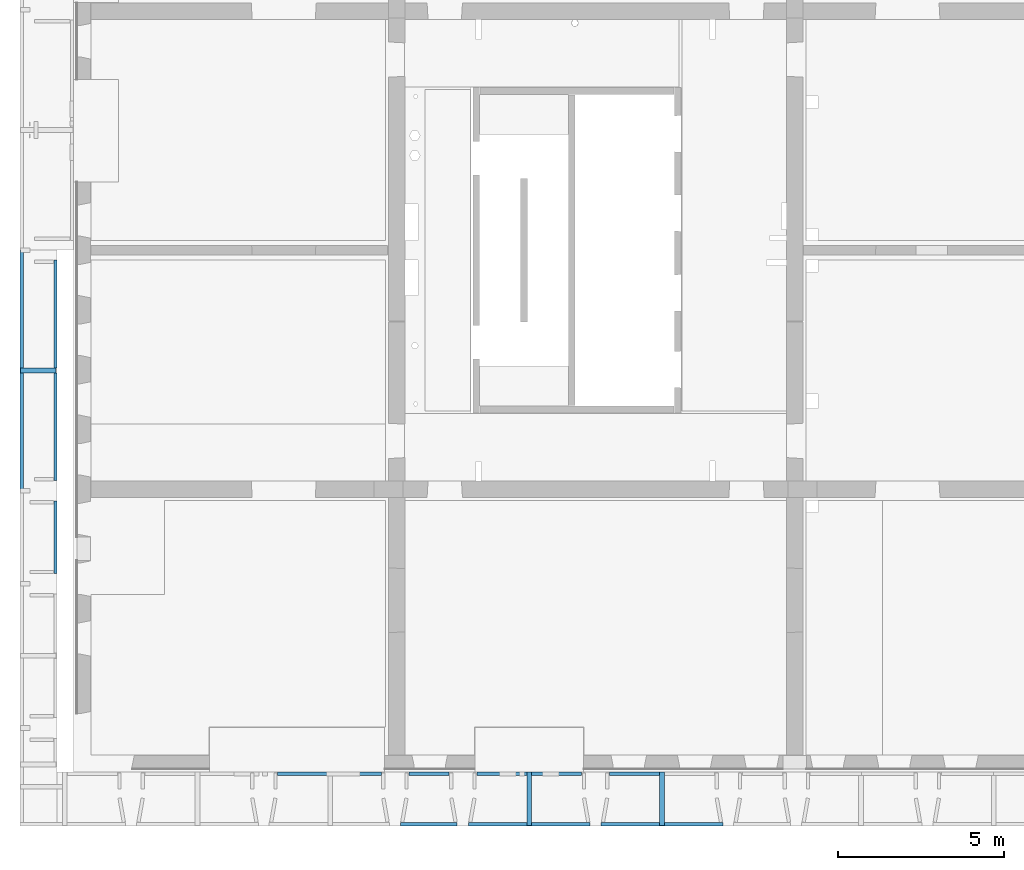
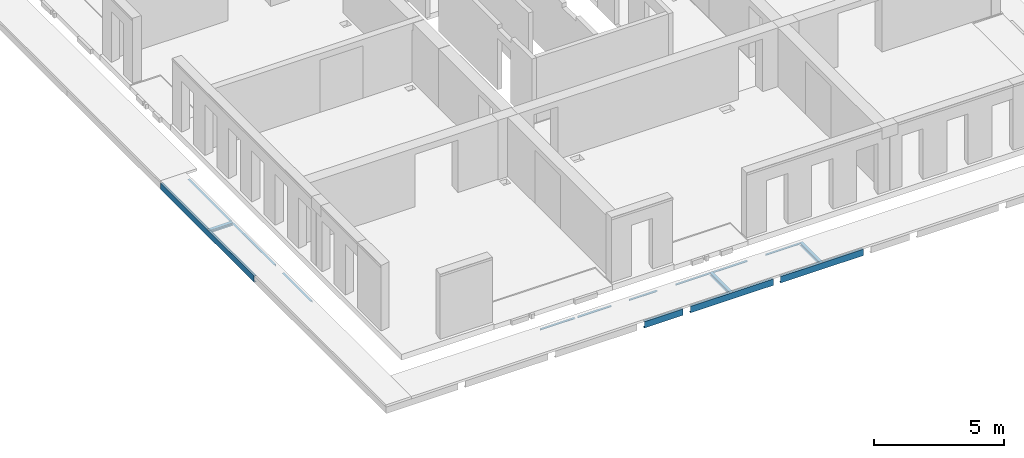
# One storey, part 2 of 27: 16 beams.
"""IFC2X3 building model written with IfcOpenShell, lengths in millimetres."""

from ifc_helpers import new_model, entity, si_unit, converted_unit, derived_unit, direction, frame, frame_2d, origin, place, context, subcontext, project, spatial, polyline, circle_curve, parameter, trimmed, segment, composite_curve, i_section, outline, extrude, material, type_object, element, save


model = new_model("IFC2X3")

# Units and contexts
model_context = context("Model", 3, precision=0.01, world=origin(), true_north=direction((6.12303176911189e-17, 1.0)))
body_context = subcontext(model_context, "Body", "Model", "MODEL_VIEW")
ifc_project = project(units=[si_unit("LENGTHUNIT", "METRE", prefix="MILLI"), si_unit("AREAUNIT", "SQUARE_METRE"), si_unit("VOLUMEUNIT", "CUBIC_METRE"), converted_unit("PLANEANGLEUNIT", "DEGREE", entity("IfcRatioMeasure", 0.0174532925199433), si_unit("PLANEANGLEUNIT", "RADIAN"), dimensions=[0, 0, 0, 0, 0, 0, 0]), si_unit("MASSUNIT", "GRAM", prefix="KILO"), derived_unit("MASSDENSITYUNIT", [(si_unit("MASSUNIT", "GRAM", prefix="KILO"), 1), (si_unit("LENGTHUNIT", "METRE"), -3)]), si_unit("TIMEUNIT", "SECOND"), si_unit("FREQUENCYUNIT", "HERTZ"), si_unit("THERMODYNAMICTEMPERATUREUNIT", "DEGREE_CELSIUS"), derived_unit("THERMALTRANSMITTANCEUNIT", [(si_unit("MASSUNIT", "GRAM", prefix="KILO"), 1), (si_unit("THERMODYNAMICTEMPERATUREUNIT", "KELVIN"), -1), (si_unit("TIMEUNIT", "SECOND"), -3)]), derived_unit("VOLUMETRICFLOWRATEUNIT", [(si_unit("LENGTHUNIT", "METRE"), 3), (si_unit("TIMEUNIT", "SECOND"), -1)]), si_unit("ELECTRICCURRENTUNIT", "AMPERE"), si_unit("ELECTRICVOLTAGEUNIT", "VOLT"), si_unit("POWERUNIT", "WATT"), si_unit("FORCEUNIT", "NEWTON", prefix="KILO"), si_unit("ILLUMINANCEUNIT", "LUX"), si_unit("LUMINOUSFLUXUNIT", "LUMEN"), si_unit("LUMINOUSINTENSITYUNIT", "CANDELA"), derived_unit("USERDEFINED", [(si_unit("MASSUNIT", "GRAM", prefix="KILO"), -1), (si_unit("LENGTHUNIT", "METRE"), -2), (si_unit("TIMEUNIT", "SECOND"), 3), (si_unit("LUMINOUSFLUXUNIT", "LUMEN"), 1)]), derived_unit("LINEARVELOCITYUNIT", [(si_unit("LENGTHUNIT", "METRE"), 1), (si_unit("TIMEUNIT", "SECOND"), -1)]), si_unit("PRESSUREUNIT", "PASCAL"), derived_unit("USERDEFINED", [(si_unit("LENGTHUNIT", "METRE"), -2), (si_unit("MASSUNIT", "GRAM", prefix="KILO"), 1), (si_unit("TIMEUNIT", "SECOND"), -2)])], contexts=[model_context])

# Site, building, storey
site_placement = place(None, origin())
site = spatial("IfcSite", under=ifc_project, at=site_placement, Name="Default", CompositionType="ELEMENT")
building_placement = place(site_placement, origin())
building = spatial("IfcBuilding", under=site, at=building_placement, Name="niet gebruiken", CompositionType="ELEMENT")
storey_placement = place(building_placement, frame((0.0, 0.0, 18000.0)))
storey = spatial("IfcBuildingStorey", under=building, at=storey_placement, Name="05 vijfde verdieping", CompositionType="ELEMENT", Elevation=18000.0)

# Beams
ifc_material = material(Name="NLRS_h2_staal")
beam_type_1 = type_object("IfcBeamType", Name="NLRS_28.11_SF_WPB_stalen ligger HEA_gen:ligger HEA 140", PredefinedType="BEAM")
beam_1_placement = place(storey_placement, frame((125490.0, 13875.0, -1015.0), z_axis=(0.0, 0.0, 1.0), x_axis=(-1.0, 0.0, 0.0)))
element("IfcBeam", 1, at=beam_1_placement, inside=storey, type_object=beam_type_1, material=ifc_material, Name="NLRS_28.11_SF_WPB_stalen ligger HEA_gen:ligger HEA 140", ObjectType="NLRS_28.11_SF_WPB_stalen ligger HEA_gen:ligger HEA 140", context=body_context, shape_type="SweptSolid", body=[
    extrude(i_section(OverallWidth=140.000000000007, OverallDepth=133.0, WebThickness=5.49999999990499, FlangeThickness=8.49999999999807, FilletRadius=11.9999999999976, at=frame_2d((-2.16715534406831e-12, -2.1600499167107e-12), x_axis=(0.0, 1.0))), frame((0.0, 0.0, -66.5000000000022), z_axis=(1.0, 0.0, 0.0), x_axis=(0.0, 0.0, -1.0)), (0.0, 0.0, 1.0), 1080.00000000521),
])
beam_2_placement = place(storey_placement, frame((139750.0, 160.0, -1015.0), z_axis=(0.0, 0.0, 1.0), x_axis=(0.0, 1.0, 0.0)))
element("IfcBeam", 2, at=beam_2_placement, inside=storey, type_object=beam_type_1, material=ifc_material, Name="NLRS_28.11_SF_WPB_stalen ligger HEA_gen:ligger HEA 140", ObjectType="NLRS_28.11_SF_WPB_stalen ligger HEA_gen:ligger HEA 140", context=body_context, shape_type="SweptSolid", body=[
    extrude(i_section(OverallWidth=140.000000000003, OverallDepth=133.0, WebThickness=5.49999999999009, FlangeThickness=8.49999999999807, FilletRadius=11.9999999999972, at=frame_2d((-4.33431068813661e-12, -1.73301373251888e-11), x_axis=(0.0, 1.0))), frame((0.0, 0.0, -66.5000000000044), z_axis=(1.0, 0.0, 0.0), x_axis=(0.0, 0.0, -1.0)), (0.0, 0.0, 1.0), 1610.0),
])
beam_3_placement = place(storey_placement, frame((143750.0, 160.0, -1015.0), z_axis=(0.0, 0.0, 1.0), x_axis=(0.0, 1.0, 0.0)))
element("IfcBeam", 3, at=beam_3_placement, inside=storey, type_object=beam_type_1, material=ifc_material, Name="NLRS_28.11_SF_WPB_stalen ligger HEA_gen:ligger HEA 140", ObjectType="NLRS_28.11_SF_WPB_stalen ligger HEA_gen:ligger HEA 140", context=body_context, shape_type="SweptSolid", body=[
    extrude(i_section(OverallWidth=140.000000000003, OverallDepth=133.0, WebThickness=5.49999999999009, FlangeThickness=8.49999999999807, FilletRadius=11.9999999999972, at=frame_2d((-4.33431068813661e-12, 0.0), x_axis=(0.0, 1.0))), frame((0.0, 0.0, -66.5000000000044), z_axis=(1.0, 0.0, 0.0), x_axis=(0.0, 0.0, -1.0)), (0.0, 0.0, 1.0), 1610.0),
])
beam_type_2 = type_object("IfcBeamType", Name="NLRS_28.11_SF_WPB_stalen ligger UNP_gen:ligger UNP 300", PredefinedType="BEAM")
beam_4_placement = place(storey_placement, frame((124427.0, 17500.0, -1015.0), z_axis=(0.0, 0.0, 1.0), x_axis=(0.0, -1.0, 0.0)))
element("IfcBeam", 4, at=beam_4_placement, inside=storey, type_object=beam_type_2, material=ifc_material, Name="NLRS_28.11_SF_WPB_stalen ligger UNP_gen:ligger UNP 300", ObjectType="NLRS_28.11_SF_WPB_stalen ligger UNP_gen:ligger UNP 300", context=body_context, shape_type="SweptSolid", body=[
    extrude(outline(composite_curve([segment(polyline([(-150.062397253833, -54.6666666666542), (149.937602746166, -54.6666666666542)]), True, "CONTINUOUS"), segment(polyline([(149.937602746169, -54.6666666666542), (149.937602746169, 45.3333333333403)]), True, "CONTINUOUS"), segment(polyline([(149.937602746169, 45.3333333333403), (142.655201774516, 45.3333333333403)]), True, "CONTINUOUS"), segment(trimmed(circle_curve(frame_2d((142.655201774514, 37.3333333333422), x_axis=(0.0, 1.0)), 7.99999999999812), [parameter(0.0)], [parameter(90.0000000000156)], True, "PARAMETER"), True, "CONTINUOUS"), segment(polyline([(134.655201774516, 37.3333333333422), (130.39041273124, -28.6666666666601)]), True, "CONTINUOUS"), segment(trimmed(circle_curve(frame_2d((114.39041273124, -28.6666666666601), x_axis=(1.0, 0.0)), 15.9999999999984), [parameter(270.0)], [parameter(0.0)], True, "PARAMETER"), False, "CONTINUOUS"), segment(polyline([(114.390412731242, -44.6666666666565), (-113.875860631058, -44.6666666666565)]), True, "CONTINUOUS"), segment(trimmed(circle_curve(frame_2d((-113.875860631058, -28.6666666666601), x_axis=(0.0, -1.0)), 15.9999999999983), [parameter(270.0)], [parameter(0.0)], True, "PARAMETER"), False, "CONTINUOUS"), segment(polyline([(-129.875860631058, -28.6666666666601), (-135.044959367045, 37.3333333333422)]), True, "CONTINUOUS"), segment(trimmed(circle_curve(frame_2d((-143.044959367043, 37.3333333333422), x_axis=(1.0, 0.0)), 7.9999999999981), [parameter(0.0)], [parameter(90.0000000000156)], True, "PARAMETER"), True, "CONTINUOUS"), segment(polyline([(-143.044959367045, 45.3333333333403), (-150.062397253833, 45.3333333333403)]), True, "CONTINUOUS"), segment(polyline([(-150.062397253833, 45.3333333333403), (-150.062397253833, -54.6666666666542)]), True, "CONTINUOUS")], self_intersect=False)), frame((6.0960005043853e-07, 27.6666666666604, -150.062397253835), z_axis=(1.0, 0.0, 0.0), x_axis=(0.0, 0.0, -1.0)), (0.0, 0.0, 1.0), 7199.9999993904),
])
beam_5_placement = place(storey_placement, frame((141585.0, 177.0, -1015.0), z_axis=(0.0, 0.0, 1.0), x_axis=(-1.0, 0.0, 0.0)))
element("IfcBeam", 5, at=beam_5_placement, inside=storey, type_object=beam_type_2, material=ifc_material, Name="NLRS_28.11_SF_WPB_stalen ligger UNP_gen:ligger UNP 300", ObjectType="NLRS_28.11_SF_WPB_stalen ligger UNP_gen:ligger UNP 300", context=body_context, shape_type="SweptSolid", body=[
    extrude(outline(composite_curve([segment(polyline([(-149.937602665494, -45.3333336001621), (-142.655201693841, -45.3333336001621)]), True, "CONTINUOUS"), segment(trimmed(circle_curve(frame_2d((-142.655201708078, -37.3333335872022), x_axis=(1.77959691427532e-09, -1.0)), 8.00000000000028), [parameter(0.0)], [parameter(89.9999999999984)], True, "PARAMETER"), True, "CONTINUOUS"), segment(polyline([(-134.655201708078, -37.3333335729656), (-130.390412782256, 28.6666664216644)]), True, "CONTINUOUS"), segment(trimmed(circle_curve(frame_2d((-114.390412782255, 28.6666664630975), x_axis=(-1.0, -1.7795827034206e-09)), 16.0), [parameter(270.000000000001)], [parameter(0.0)], True, "PARAMETER"), False, "CONTINUOUS"), segment(polyline([(-114.390412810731, 44.6666664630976), (113.875860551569, 44.66666685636)]), True, "CONTINUOUS"), segment(trimmed(circle_curve(frame_2d((113.875860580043, 28.6666668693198), x_axis=(-1.77959691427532e-09, 1.0)), 15.9999999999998), [parameter(270.0)], [parameter(0.0)], True, "PARAMETER"), False, "CONTINUOUS"), segment(polyline([(129.875860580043, 28.6666668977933), (135.044959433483, -37.3333331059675)]), True, "CONTINUOUS"), segment(trimmed(circle_curve(frame_2d((143.044959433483, -37.3333330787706), x_axis=(-1.0, -1.77961823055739e-09)), 8.00000000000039), [parameter(0.0)], [parameter(89.9999999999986)], True, "PARAMETER"), True, "CONTINUOUS"), segment(polyline([(143.04495944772, -45.3333330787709), (150.062397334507, -45.3333330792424)]), True, "CONTINUOUS"), segment(polyline([(150.062397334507, -45.3333330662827), (150.062397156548, 54.6666669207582)]), True, "CONTINUOUS"), segment(polyline([(150.062397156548, 54.666666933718), (-149.937602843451, 54.666666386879)]), True, "CONTINUOUS"), segment(polyline([(-149.937602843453, 54.6666663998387), (-149.937602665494, -45.3333336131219)]), True, "CONTINUOUS")], self_intersect=False)), frame((0.0, -27.6666666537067, -149.937602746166), z_axis=(1.0, 0.0, 0.0), x_axis=(0.0, -1.77959439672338e-09, -1.0)), (0.0, 0.0, 1.0), 3673.03330011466),
])
beam_6_placement = place(storey_placement, frame((145585.0, 177.0, -1015.0), z_axis=(0.0, 0.0, 1.0), x_axis=(-1.0, 0.0, 0.0)))
element("IfcBeam", 6, at=beam_6_placement, inside=storey, type_object=beam_type_2, material=ifc_material, Name="NLRS_28.11_SF_WPB_stalen ligger UNP_gen:ligger UNP 300", ObjectType="NLRS_28.11_SF_WPB_stalen ligger UNP_gen:ligger UNP 300", context=body_context, shape_type="SweptSolid", body=[
    extrude(outline(composite_curve([segment(polyline([(-149.937602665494, -45.3333336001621), (-142.655201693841, -45.3333336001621)]), True, "CONTINUOUS"), segment(trimmed(circle_curve(frame_2d((-142.655201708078, -37.3333335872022), x_axis=(1.77959691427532e-09, -1.0)), 8.00000000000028), [parameter(0.0)], [parameter(89.9999999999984)], True, "PARAMETER"), True, "CONTINUOUS"), segment(polyline([(-134.655201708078, -37.3333335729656), (-130.390412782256, 28.6666664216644)]), True, "CONTINUOUS"), segment(trimmed(circle_curve(frame_2d((-114.390412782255, 28.6666664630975), x_axis=(-1.0, -1.7795827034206e-09)), 16.0), [parameter(270.000000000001)], [parameter(0.0)], True, "PARAMETER"), False, "CONTINUOUS"), segment(polyline([(-114.390412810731, 44.6666664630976), (113.875860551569, 44.66666685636)]), True, "CONTINUOUS"), segment(trimmed(circle_curve(frame_2d((113.875860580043, 28.6666668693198), x_axis=(-1.77959691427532e-09, 1.0)), 15.9999999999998), [parameter(270.0)], [parameter(0.0)], True, "PARAMETER"), False, "CONTINUOUS"), segment(polyline([(129.875860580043, 28.6666668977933), (135.044959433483, -37.3333331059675)]), True, "CONTINUOUS"), segment(trimmed(circle_curve(frame_2d((143.044959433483, -37.3333330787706), x_axis=(-1.0, -1.77961823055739e-09)), 8.00000000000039), [parameter(0.0)], [parameter(89.9999999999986)], True, "PARAMETER"), True, "CONTINUOUS"), segment(polyline([(143.04495944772, -45.3333330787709), (150.062397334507, -45.3333330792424)]), True, "CONTINUOUS"), segment(polyline([(150.062397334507, -45.3333330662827), (150.062397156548, 54.6666669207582)]), True, "CONTINUOUS"), segment(polyline([(150.062397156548, 54.666666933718), (-149.937602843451, 54.666666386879)]), True, "CONTINUOUS"), segment(polyline([(-149.937602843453, 54.6666663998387), (-149.937602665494, -45.3333336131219)]), True, "CONTINUOUS")], self_intersect=False)), frame((0.0, -27.6666666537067, -149.937602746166), z_axis=(1.0, 0.0, 0.0), x_axis=(0.0, -1.77959439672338e-09, -1.0)), (0.0, 0.0, 1.0), 3673.03330011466),
])
beam_7_placement = place(storey_placement, frame((137576.966699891, 177.0, -1015.0), z_axis=(0.0, 0.0, 1.0), x_axis=(-1.0, 0.0, 0.0)))
element("IfcBeam", 7, at=beam_7_placement, inside=storey, type_object=beam_type_2, material=ifc_material, Name="NLRS_28.11_SF_WPB_stalen ligger UNP_gen:ligger UNP 300", ObjectType="NLRS_28.11_SF_WPB_stalen ligger UNP_gen:ligger UNP 300", context=body_context, shape_type="SweptSolid", body=[
    extrude(outline(composite_curve([segment(polyline([(-149.9376027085, -45.3333334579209), (-142.655201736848, -45.3333334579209)]), True, "CONTINUOUS"), segment(trimmed(circle_curve(frame_2d((-142.655201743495, -37.3333334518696), x_axis=(0.0, -1.0)), 8.00000000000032), [parameter(0.0)], [parameter(89.9999999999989)], True, "PARAMETER"), True, "CONTINUOUS"), segment(polyline([(-134.655201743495, -37.3333334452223), (-130.390412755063, 28.6666665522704)]), True, "CONTINUOUS"), segment(trimmed(circle_curve(frame_2d((-114.39041275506, 28.6666665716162), x_axis=(-1.0, 0.0)), 16.0), [parameter(270.000000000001)], [parameter(0.0)], True, "PARAMETER"), False, "CONTINUOUS"), segment(polyline([(-114.390412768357, 44.6666665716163), (113.875860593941, 44.6666667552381)]), True, "CONTINUOUS"), segment(trimmed(circle_curve(frame_2d((113.875860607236, 28.6666667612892), x_axis=(0.0, 1.0)), 15.9999999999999), [parameter(270.0)], [parameter(0.0)], True, "PARAMETER"), False, "CONTINUOUS"), segment(polyline([(129.875860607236, 28.6666667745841), (135.044959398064, -37.3333332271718)]), True, "CONTINUOUS"), segment(trimmed(circle_curve(frame_2d((143.044959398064, -37.333333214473), x_axis=(-1.0, 0.0)), 8.00000000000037), [parameter(0.0)], [parameter(89.9999999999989)], True, "PARAMETER"), True, "CONTINUOUS"), segment(polyline([(143.044959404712, -45.3333332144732), (150.062397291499, -45.3333332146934)]), True, "CONTINUOUS"), segment(polyline([(150.062397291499, -45.3333332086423), (150.062397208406, 54.6666667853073)]), True, "CONTINUOUS"), segment(polyline([(150.062397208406, 54.6666667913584), (-149.937602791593, 54.6666665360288)]), True, "CONTINUOUS"), segment(polyline([(-149.937602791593, 54.66666654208), (-149.9376027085, -45.333333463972)]), True, "CONTINUOUS")], self_intersect=False)), frame((0.0, -27.6666666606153, -149.937602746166), z_axis=(1.0, 0.0, 0.0), x_axis=(0.0, 0.0, -1.0)), (0.0, 0.0, 1.0), 1715.00000000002),
])
beam_type_3 = type_object("IfcBeamType", Name="NLRS_28.11_SF_WPB_stalen ligger hoekprofiel gelijkzijdig_gen:ligger gelijzijdig hoekprofiel LEQU_100x100x10", PredefinedType="BEAM")
beam_8_placement = place(storey_placement, frame((125520.0, 17250.0, -1015.0), z_axis=(0.0, 0.0, 1.0), x_axis=(0.0, -1.0, 0.0)))
element("IfcBeam", 8, at=beam_8_placement, inside=storey, type_object=beam_type_3, material=ifc_material, Name="NLRS_28.11_SF_WPB_stalen ligger hoekprofiel gelijkzijdig_gen:ligger gelijzijdig hoekprofiel LEQU_100x100x10", ObjectType="NLRS_28.11_SF_WPB_stalen ligger hoekprofiel gelijkzijdig_gen:ligger gelijzijdig hoekprofiel LEQU_100x100x10", context=body_context, shape_type="SweptSolid", body=[
    extrude(outline(composite_curve([segment(polyline([(-37.7777777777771, -62.2222222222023), (-33.7777777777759, -62.2222222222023)]), True, "CONTINUOUS"), segment(trimmed(circle_curve(frame_2d((-33.7777777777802, -56.2222222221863), x_axis=(0.0, -1.0)), 6.00000000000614), [parameter(0.0)], [parameter(89.9999999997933)], True, "PARAMETER"), True, "CONTINUOUS"), segment(polyline([(-27.7777777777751, -56.2222222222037), (-27.7777777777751, 15.7777777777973)]), True, "CONTINUOUS"), segment(trimmed(circle_curve(frame_2d((-15.7777777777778, 15.7777777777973), x_axis=(-1.0, 0.0)), 11.9999999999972), [parameter(269.99999999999)], [parameter(0.0)], True, "PARAMETER"), False, "CONTINUOUS"), segment(polyline([(-15.7777777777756, 27.7777777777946), (56.2222222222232, 27.7777777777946)]), True, "CONTINUOUS"), segment(trimmed(circle_curve(frame_2d((56.2222222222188, 33.7777777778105), x_axis=(0.0, -1.0)), 6.00000000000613), [parameter(0.0)], [parameter(89.9999999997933)], True, "PARAMETER"), True, "CONTINUOUS"), segment(polyline([(62.222222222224, 33.7777777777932), (62.222222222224, 37.7777777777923)]), True, "CONTINUOUS"), segment(polyline([(62.222222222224, 37.7777777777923), (-37.7777777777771, 37.7777777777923)]), True, "CONTINUOUS"), segment(polyline([(-37.7777777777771, 37.7777777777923), (-37.7777777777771, -62.2222222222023)]), True, "CONTINUOUS")], self_intersect=False)), frame((50.0, -37.7777777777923, -37.7777777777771), z_axis=(1.0, 0.0, 0.0), x_axis=(0.0, 0.0, -1.0)), (0.0, 0.0, 1.0), 3245.00000000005),
])
beam_9_placement = place(storey_placement, frame((125520.0, 13805.0, -1015.0), z_axis=(0.0, 0.0, 1.0), x_axis=(0.0, -1.0, 0.0)))
element("IfcBeam", 9, at=beam_9_placement, inside=storey, type_object=beam_type_3, material=ifc_material, Name="NLRS_28.11_SF_WPB_stalen ligger hoekprofiel gelijkzijdig_gen:ligger gelijzijdig hoekprofiel LEQU_100x100x10", ObjectType="NLRS_28.11_SF_WPB_stalen ligger hoekprofiel gelijkzijdig_gen:ligger gelijzijdig hoekprofiel LEQU_100x100x10", context=body_context, shape_type="SweptSolid", body=[
    extrude(outline(composite_curve([segment(polyline([(-37.7777777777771, -62.2222222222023), (-33.7777777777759, -62.2222222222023)]), True, "CONTINUOUS"), segment(trimmed(circle_curve(frame_2d((-33.7777777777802, -56.2222222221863), x_axis=(0.0, -1.0)), 6.00000000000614), [parameter(0.0)], [parameter(89.9999999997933)], True, "PARAMETER"), True, "CONTINUOUS"), segment(polyline([(-27.7777777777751, -56.2222222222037), (-27.7777777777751, 15.7777777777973)]), True, "CONTINUOUS"), segment(trimmed(circle_curve(frame_2d((-15.7777777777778, 15.7777777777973), x_axis=(-1.0, 0.0)), 11.9999999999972), [parameter(269.99999999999)], [parameter(0.0)], True, "PARAMETER"), False, "CONTINUOUS"), segment(polyline([(-15.7777777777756, 27.7777777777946), (56.2222222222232, 27.7777777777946)]), True, "CONTINUOUS"), segment(trimmed(circle_curve(frame_2d((56.2222222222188, 33.7777777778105), x_axis=(0.0, -1.0)), 6.00000000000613), [parameter(0.0)], [parameter(89.9999999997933)], True, "PARAMETER"), True, "CONTINUOUS"), segment(polyline([(62.222222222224, 33.7777777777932), (62.222222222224, 37.7777777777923)]), True, "CONTINUOUS"), segment(polyline([(62.222222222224, 37.7777777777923), (-37.7777777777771, 37.7777777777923)]), True, "CONTINUOUS"), segment(polyline([(-37.7777777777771, 37.7777777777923), (-37.7777777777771, -62.2222222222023)]), True, "CONTINUOUS")], self_intersect=False)), frame((10.0, -37.7777777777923, -37.7777777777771), z_axis=(1.0, 0.0, 0.0), x_axis=(0.0, 0.0, -1.0)), (0.0, 0.0, 1.0), 3232.29999999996),
])
beam_10_placement = place(storey_placement, frame((125520.0, 9950.0, -1015.0), z_axis=(0.0, 0.0, 1.0), x_axis=(0.0, -1.0, 0.0)))
element("IfcBeam", 10, at=beam_10_placement, inside=storey, type_object=beam_type_3, material=ifc_material, Name="NLRS_28.11_SF_WPB_stalen ligger hoekprofiel gelijkzijdig_gen:ligger gelijzijdig hoekprofiel LEQU_100x100x10", ObjectType="NLRS_28.11_SF_WPB_stalen ligger hoekprofiel gelijkzijdig_gen:ligger gelijzijdig hoekprofiel LEQU_100x100x10", context=body_context, shape_type="SweptSolid", body=[
    extrude(outline(composite_curve([segment(polyline([(-37.7777777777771, -62.2222222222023), (-33.7777777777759, -62.2222222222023)]), True, "CONTINUOUS"), segment(trimmed(circle_curve(frame_2d((-33.7777777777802, -56.2222222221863), x_axis=(0.0, -1.0)), 6.00000000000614), [parameter(0.0)], [parameter(89.9999999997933)], True, "PARAMETER"), True, "CONTINUOUS"), segment(polyline([(-27.7777777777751, -56.2222222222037), (-27.7777777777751, 15.7777777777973)]), True, "CONTINUOUS"), segment(trimmed(circle_curve(frame_2d((-15.7777777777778, 15.7777777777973), x_axis=(-1.0, 0.0)), 11.9999999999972), [parameter(269.99999999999)], [parameter(0.0)], True, "PARAMETER"), False, "CONTINUOUS"), segment(polyline([(-15.7777777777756, 27.7777777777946), (56.2222222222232, 27.7777777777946)]), True, "CONTINUOUS"), segment(trimmed(circle_curve(frame_2d((56.2222222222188, 33.7777777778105), x_axis=(0.0, -1.0)), 6.00000000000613), [parameter(0.0)], [parameter(89.9999999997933)], True, "PARAMETER"), True, "CONTINUOUS"), segment(polyline([(62.222222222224, 33.7777777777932), (62.222222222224, 37.7777777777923)]), True, "CONTINUOUS"), segment(polyline([(62.222222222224, 37.7777777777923), (-37.7777777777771, 37.7777777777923)]), True, "CONTINUOUS"), segment(polyline([(-37.7777777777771, 37.7777777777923), (-37.7777777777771, -62.2222222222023)]), True, "CONTINUOUS")], self_intersect=False)), frame((10.0000006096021, -37.7777777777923, -37.7777777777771), z_axis=(1.0, 0.0, 0.0), x_axis=(0.0, 0.0, -1.0)), (0.0, 0.0, 1.0), 2179.9999987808),
])
beam_11_placement = place(storey_placement, frame((141330.0, 1670.0, -1015.0), z_axis=(0.0, 0.0, 1.0), x_axis=(-1.0, 0.0, 0.0)))
element("IfcBeam", 11, at=beam_11_placement, inside=storey, type_object=beam_type_3, material=ifc_material, Name="NLRS_28.11_SF_WPB_stalen ligger hoekprofiel gelijkzijdig_gen:ligger gelijzijdig hoekprofiel LEQU_100x100x10", ObjectType="NLRS_28.11_SF_WPB_stalen ligger hoekprofiel gelijkzijdig_gen:ligger gelijzijdig hoekprofiel LEQU_100x100x10", context=body_context, shape_type="SweptSolid", body=[
    extrude(outline(composite_curve([segment(polyline([(-37.7777777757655, -37.7777777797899), (62.2222222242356, -37.7777777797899)]), True, "CONTINUOUS"), segment(polyline([(62.2222222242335, -37.7777777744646), (62.2222222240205, -33.7777777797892)]), True, "CONTINUOUS"), segment(trimmed(circle_curve(frame_2d((56.2222222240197, -33.7777777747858), x_axis=(1.0, 0.0)), 6.0000000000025), [parameter(0.0)], [parameter(89.9999999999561)], True, "PARAMETER"), True, "CONTINUOUS"), segment(polyline([(56.2222222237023, -27.7777777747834), (-15.7777777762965, -27.7777777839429)]), True, "CONTINUOUS"), segment(trimmed(circle_curve(frame_2d((-15.7777777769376, -15.7777777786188), x_axis=(0.0, -1.0)), 11.9999999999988), [parameter(269.999999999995)], [parameter(0.0)], True, "PARAMETER"), False, "CONTINUOUS"), segment(polyline([(-27.7777777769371, -15.7777777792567), (-27.7777777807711, 56.2222222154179)]), True, "CONTINUOUS"), segment(trimmed(circle_curve(frame_2d((-33.777777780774, 56.2222222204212), x_axis=(1.0, 0.0)), 6.0000000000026), [parameter(0.0)], [parameter(89.9999999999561)], True, "PARAMETER"), True, "CONTINUOUS"), segment(polyline([(-33.7777777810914, 62.2222222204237), (-37.7777777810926, 62.2222222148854)]), True, "CONTINUOUS"), segment(polyline([(-37.7777777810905, 62.2222222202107), (-37.7777777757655, -37.7777777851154)]), True, "CONTINUOUS")], self_intersect=False)), frame((0.0, -62.2222222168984, -37.7777777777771), z_axis=(1.0, 0.0, 0.0), x_axis=(0.0, 0.0, -1.0)), (0.0, 0.0, 1.0), 1510.00000000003),
])
for number, where, z_axis, x_axis, name in (
    (12, (139750.0, 1670.0, -1015.0), (0.0, 0.0, 1.0), (-1.0, 0.0, 0.0), "NLRS_28.11_SF_WPB_stalen ligger hoekprofiel gelijkzijdig_gen:ligger gelijzijdig hoekprofiel LEQU_100x100x10"),
    (13, (143750.0, 1670.0, -1015.0), (0.0, 0.0, 1.0), (-1.0, 0.0, 0.0), "NLRS_28.11_SF_WPB_stalen ligger hoekprofiel gelijkzijdig_gen:ligger gelijzijdig hoekprofiel LEQU_100x100x10"),
):
    element("IfcBeam", number, at=place(storey_placement, frame(where, z_axis=z_axis, x_axis=x_axis)), inside=storey, type_object=beam_type_3, material=ifc_material, Name=name, ObjectType="NLRS_28.11_SF_WPB_stalen ligger hoekprofiel gelijkzijdig_gen:ligger gelijzijdig hoekprofiel LEQU_100x100x10", context=body_context, shape_type="SweptSolid", body=[
        extrude(outline(composite_curve([segment(polyline([(-37.7777777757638, -37.7777777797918), (62.2222222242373, -37.7777777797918)]), True, "CONTINUOUS"), segment(polyline([(62.2222222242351, -37.7777777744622), (62.2222222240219, -33.7777777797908)]), True, "CONTINUOUS"), segment(trimmed(circle_curve(frame_2d((56.2222222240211, -33.7777777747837), x_axis=(1.0, 0.0)), 6.0000000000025), [parameter(0.0)], [parameter(89.9999999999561)], True, "PARAMETER"), True, "CONTINUOUS"), segment(polyline([(56.2222222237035, -27.7777777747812), (-15.7777777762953, -27.777777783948)]), True, "CONTINUOUS"), segment(trimmed(circle_curve(frame_2d((-15.777777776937, -15.7777777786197), x_axis=(0.0, -1.0)), 11.9999999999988), [parameter(269.999999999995)], [parameter(0.0)], True, "PARAMETER"), False, "CONTINUOUS"), segment(polyline([(-27.7777777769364, -15.7777777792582), (-27.7777777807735, 56.2222222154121)]), True, "CONTINUOUS"), segment(trimmed(circle_curve(frame_2d((-33.7777777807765, 56.2222222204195), x_axis=(1.0, 0.0)), 6.0000000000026), [parameter(0.0)], [parameter(89.9999999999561)], True, "PARAMETER"), True, "CONTINUOUS"), segment(polyline([(-33.7777777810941, 62.2222222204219), (-37.7777777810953, 62.2222222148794)]), True, "CONTINUOUS"), segment(polyline([(-37.7777777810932, 62.2222222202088), (-37.7777777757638, -37.7777777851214)]), True, "CONTINUOUS")], self_intersect=False)), frame((70.0, -62.2222222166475, -37.7777777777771), z_axis=(1.0, 0.0, 0.0), x_axis=(0.0, 0.0, -1.0)), (0.0, 0.0, 1.0), 1510.00000000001),
    ])
beam_12_placement = place(storey_placement, frame((135299.956784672, 1670.0, -1015.0), z_axis=(0.0, 0.0, 1.0), x_axis=(-1.0, 0.0, 0.0)))
element("IfcBeam", 14, at=beam_12_placement, inside=storey, type_object=beam_type_3, material=ifc_material, Name="NLRS_28.11_SF_WPB_stalen ligger hoekprofiel gelijkzijdig_gen:ligger gelijzijdig hoekprofiel LEQU_100x100x10", ObjectType="NLRS_28.11_SF_WPB_stalen ligger hoekprofiel gelijkzijdig_gen:ligger gelijzijdig hoekprofiel LEQU_100x100x10", context=body_context, shape_type="SweptSolid", body=[
    extrude(outline(composite_curve([segment(polyline([(-37.7777777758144, -37.7777777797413), (62.2222222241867, -37.7777777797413)]), True, "CONTINUOUS"), segment(polyline([(62.2222222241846, -37.7777777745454), (62.2222222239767, -33.7777777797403)]), True, "CONTINUOUS"), segment(trimmed(circle_curve(frame_2d((56.2222222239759, -33.7777777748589), x_axis=(1.0, 0.0)), 6.0000000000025), [parameter(0.0)], [parameter(89.9999999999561)], True, "PARAMETER"), True, "CONTINUOUS"), segment(polyline([(56.2222222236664, -27.7777777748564), (-15.7777777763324, -27.7777777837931)]), True, "CONTINUOUS"), segment(trimmed(circle_curve(frame_2d((-15.7777777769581, -15.7777777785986), x_axis=(0.0, -1.0)), 11.9999999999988), [parameter(269.999999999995)], [parameter(0.0)], True, "PARAMETER"), False, "CONTINUOUS"), segment(polyline([(-27.7777777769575, -15.777777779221), (-27.7777777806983, 56.222222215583)]), True, "CONTINUOUS"), segment(trimmed(circle_curve(frame_2d((-33.7777777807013, 56.2222222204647), x_axis=(1.0, 0.0)), 6.0000000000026), [parameter(0.0)], [parameter(89.9999999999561)], True, "PARAMETER"), True, "CONTINUOUS"), segment(polyline([(-33.7777777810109, 62.2222222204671), (-37.7777777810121, 62.2222222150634)]), True, "CONTINUOUS"), segment(polyline([(-37.7777777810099, 62.2222222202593), (-37.7777777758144, -37.7777777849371)]), True, "CONTINUOUS")], self_intersect=False)), frame((6.6475092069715, -62.2222222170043, -37.7777777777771), z_axis=(1.0, 0.0, 0.0), x_axis=(0.0, 0.0, -1.0)), (0.0, 0.0, 1.0), 1473.30927546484),
])
beam_13_placement = place(storey_placement, frame((133750.0, 1670.0, -1015.0), z_axis=(0.0, 0.0, 1.0), x_axis=(-1.0, 0.0, 0.0)))
element("IfcBeam", 15, at=beam_13_placement, inside=storey, type_object=beam_type_3, material=ifc_material, Name="NLRS_28.11_SF_WPB_stalen ligger hoekprofiel gelijkzijdig_gen:ligger gelijzijdig hoekprofiel LEQU_100x100x10", ObjectType="NLRS_28.11_SF_WPB_stalen ligger hoekprofiel gelijkzijdig_gen:ligger gelijzijdig hoekprofiel LEQU_100x100x10", context=body_context, shape_type="SweptSolid", body=[
    extrude(outline(composite_curve([segment(polyline([(-37.7777777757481, -37.777777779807), (62.222222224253, -37.777777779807)]), True, "CONTINUOUS"), segment(polyline([(62.2222222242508, -37.7777777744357), (62.222222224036, -33.777777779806)]), True, "CONTINUOUS"), segment(trimmed(circle_curve(frame_2d((56.2222222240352, -33.7777777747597), x_axis=(1.0, 0.0)), 6.0000000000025), [parameter(0.0)], [parameter(89.9999999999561)], True, "PARAMETER"), True, "CONTINUOUS"), segment(polyline([(56.2222222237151, -27.7777777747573), (-15.7777777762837, -27.7777777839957)]), True, "CONTINUOUS"), segment(trimmed(circle_curve(frame_2d((-15.7777777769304, -15.7777777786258), x_axis=(0.0, -1.0)), 11.9999999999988), [parameter(269.999999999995)], [parameter(0.0)], True, "PARAMETER"), False, "CONTINUOUS"), segment(polyline([(-27.7777777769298, -15.7777777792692), (-27.7777777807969, 56.2222222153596)]), True, "CONTINUOUS"), segment(trimmed(circle_curve(frame_2d((-33.7777777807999, 56.222222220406), x_axis=(1.0, 0.0)), 6.0000000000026), [parameter(0.0)], [parameter(89.9999999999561)], True, "PARAMETER"), True, "CONTINUOUS"), segment(polyline([(-33.77777778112, 62.2222222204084), (-37.7777777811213, 62.2222222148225)]), True, "CONTINUOUS"), segment(polyline([(-37.7777777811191, 62.2222222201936), (-37.7777777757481, -37.7777777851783)]), True, "CONTINUOUS")], self_intersect=False)), frame((70.0, -62.2222222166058, -37.7777777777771), z_axis=(1.0, 0.0, 0.0), x_axis=(0.0, 0.0, -1.0)), (0.0, 0.0, 1.0), 1521.82414287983),
])
beam_14_placement = place(storey_placement, frame((137350.0, 1670.0, -1015.0), z_axis=(0.0, 0.0, 1.0), x_axis=(-1.0, 0.0, 0.0)))
element("IfcBeam", 16, at=beam_14_placement, inside=storey, type_object=beam_type_3, material=ifc_material, Name="NLRS_28.11_SF_WPB_stalen ligger hoekprofiel gelijkzijdig_gen:ligger gelijzijdig hoekprofiel LEQU_100x100x10", ObjectType="NLRS_28.11_SF_WPB_stalen ligger hoekprofiel gelijkzijdig_gen:ligger gelijzijdig hoekprofiel LEQU_100x100x10", context=body_context, shape_type="SweptSolid", body=[
    extrude(outline(composite_curve([segment(polyline([(-37.7777777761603, -37.7777777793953), (62.2222222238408, -37.7777777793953)]), True, "CONTINUOUS"), segment(polyline([(62.2222222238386, -37.7777777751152), (62.2222222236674, -33.7777777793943)]), True, "CONTINUOUS"), segment(trimmed(circle_curve(frame_2d((56.2222222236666, -33.7777777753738), x_axis=(1.0, 0.0)), 6.0000000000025), [parameter(0.0)], [parameter(89.9999999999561)], True, "PARAMETER"), True, "CONTINUOUS"), segment(polyline([(56.222222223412, -27.7777777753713), (-15.7777777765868, -27.7777777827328)]), True, "CONTINUOUS"), segment(trimmed(circle_curve(frame_2d((-15.7777777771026, -15.7777777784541), x_axis=(0.0, -1.0)), 11.9999999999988), [parameter(269.999999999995)], [parameter(0.0)], True, "PARAMETER"), False, "CONTINUOUS"), segment(polyline([(-27.777777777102, -15.7777777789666), (-27.7777777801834, 56.2222222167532)]), True, "CONTINUOUS"), segment(trimmed(circle_curve(frame_2d((-33.7777777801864, 56.222222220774), x_axis=(1.0, 0.0)), 6.0000000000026), [parameter(0.0)], [parameter(89.9999999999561)], True, "PARAMETER"), True, "CONTINUOUS"), segment(polyline([(-33.777777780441, 62.2222222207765), (-37.7777777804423, 62.2222222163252)]), True, "CONTINUOUS"), segment(polyline([(-37.7777777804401, 62.2222222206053), (-37.7777777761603, -37.7777777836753)]), True, "CONTINUOUS")], self_intersect=False)), frame((17.3507403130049, -62.2222222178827, -37.7777777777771), z_axis=(1.0, 0.0, 0.0), x_axis=(0.0, 0.0, -1.0)), (0.0, 0.0, 1.0), 1212.64925968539),
])

save(model, "model.ifc")
